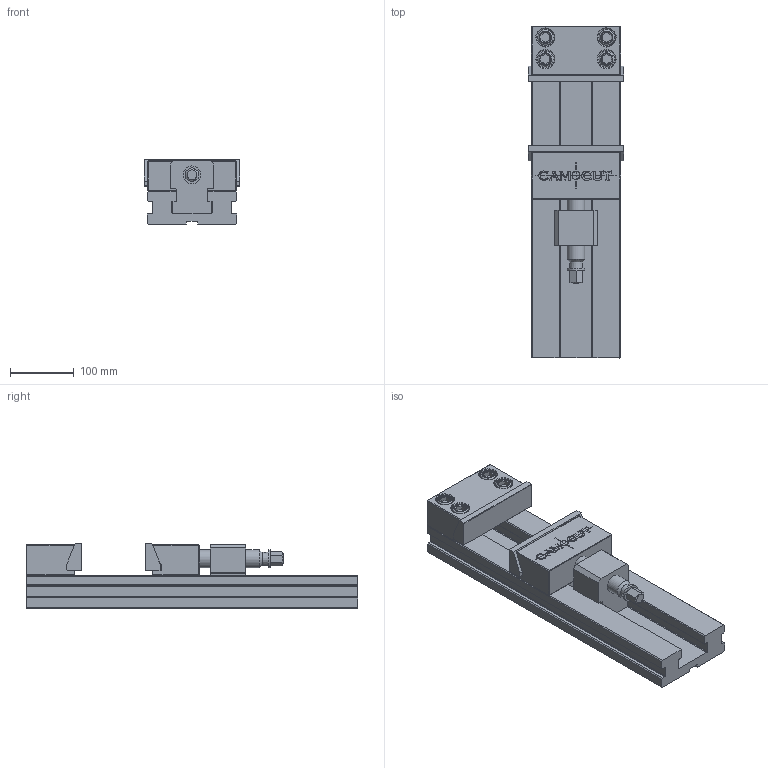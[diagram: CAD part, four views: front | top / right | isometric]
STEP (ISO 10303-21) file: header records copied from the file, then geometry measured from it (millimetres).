
FILE_DESCRIPTION((''),'2;1');
FILE_NAME('C:\Users\User\Dropbox\Camcut\Koulutus\Mastercam\Kiinnittimet\Puristin.stp','2020-03-26T17:56:12',(''),(''),'STEP Write','Mastercam 2020 ... CNC Software, Inc.','');
FILE_SCHEMA(('AUTOMOTIVE_DESIGN'));
Length unit declared in the file: millimetre
Products named in the file (1): None
Bounding box: 150 x 521 x 102 mm (x, y, z)
Volume: 3145623.6 mm3; surface area: 408790.3 mm2
Topology: 1 solids, 2 shells, 573 faces, 1581 edges, 1063 vertices
Faces by surface type: plane 417, cylinder 76, bspline 65, cone 11, torus 4
Full cylindrical faces by diameter (mm): 0.71 x1, 24 x4, 27.989 x3, 28 x4
Entity records: 20763 total; most frequent: CARTESIAN_POINT 6188, ORIENTED_EDGE 3064, DIRECTION 2488, EDGE_CURVE 1536, VECTOR 1126, LINE 1126, VERTEX_POINT 1045, AXIS2_PLACEMENT_3D 681
